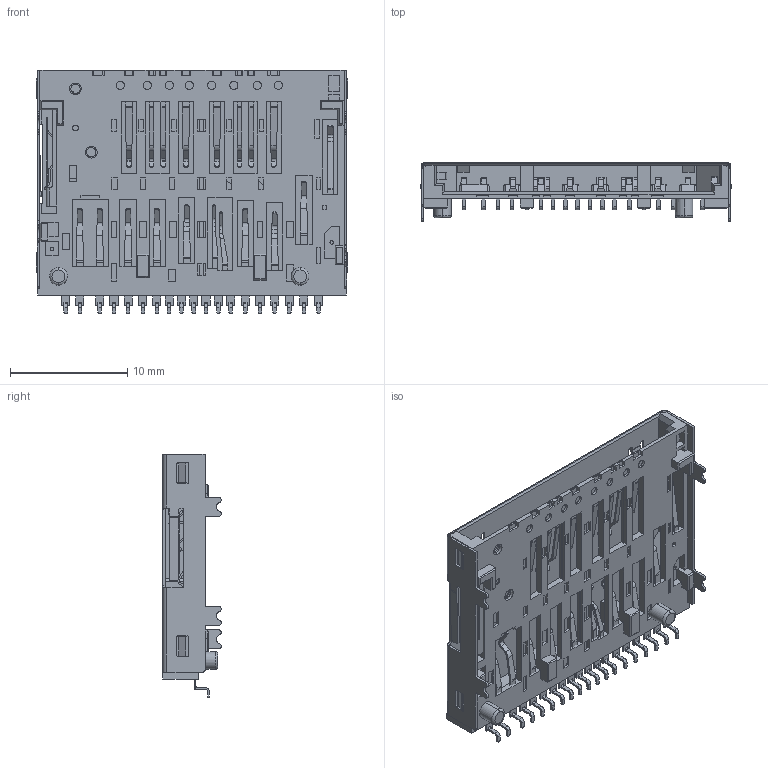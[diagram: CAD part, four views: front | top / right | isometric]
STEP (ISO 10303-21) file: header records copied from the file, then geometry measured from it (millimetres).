
FILE_DESCRIPTION((''),'2;1');
FILE_NAME('SD4_0_TERMINA_TOPMOUNT_ASM','2022-12-05T',('Administrator'),(''),'PRO/ENGINEER BY PARAMETRIC TECHNOLOGY CORPORATION, 2011310','PRO/ENGINEER BY PARAMETRIC TECHNOLOGY CORPORATION, 2011310','');
FILE_SCHEMA(('CONFIG_CONTROL_DESIGN','SHAPE_APPEARANCE_LAYERS_GROUPS'));
Products named in the file (24): P001; P002; P003; P004; P005; P006; P007; P008; P09; P010; P011; P012; P013; P014; P015; P016; P017; P018; P019_______; SD4_0_HOUSING_000; SD4_0_SHELL_000; LAYOUT_1; SD4_0_TERMINA_TOPMOUNT___000_AS_ASM; SD4_0_TERMINA_TOPMOUNT_ASM
Assembly tree (23 placements, depth 3):
  SD4_0_TERMINA_TOPMOUNT_ASM
    SD4_0_TERMINA_TOPMOUNT___000_AS_ASM
      P001
      P002
      P003
      P004
      P005
      P006
      P007
      P008
      P09
      P010
      P011
      P012
      P013
      P014
      P015
      P016
      P017
      P018
      P019_______
      SD4_0_HOUSING_000
      SD4_0_SHELL_000
      LAYOUT_1
Bounding box: 26.55 x 4.98 x 20.8 mm (x, y, z)
Volume: 475.3 mm3; surface area: 3148.4 mm2
Topology: 6 solids, 23 shells, 2335 faces, 5891 edges, 3735 vertices
Faces by surface type: plane 1664, cylinder 596, bspline 52, sphere 16, torus 4, cone 3
Entity records: 88255 total; most frequent: CARTESIAN_POINT 14042, DIRECTION 11659, ORIENTED_EDGE 11460, EDGE_CURVE 5760, VECTOR 4617, LINE 4617, PRESENTATION_STYLE_ASSIGNMENT 4170, STYLED_ITEM 4170
